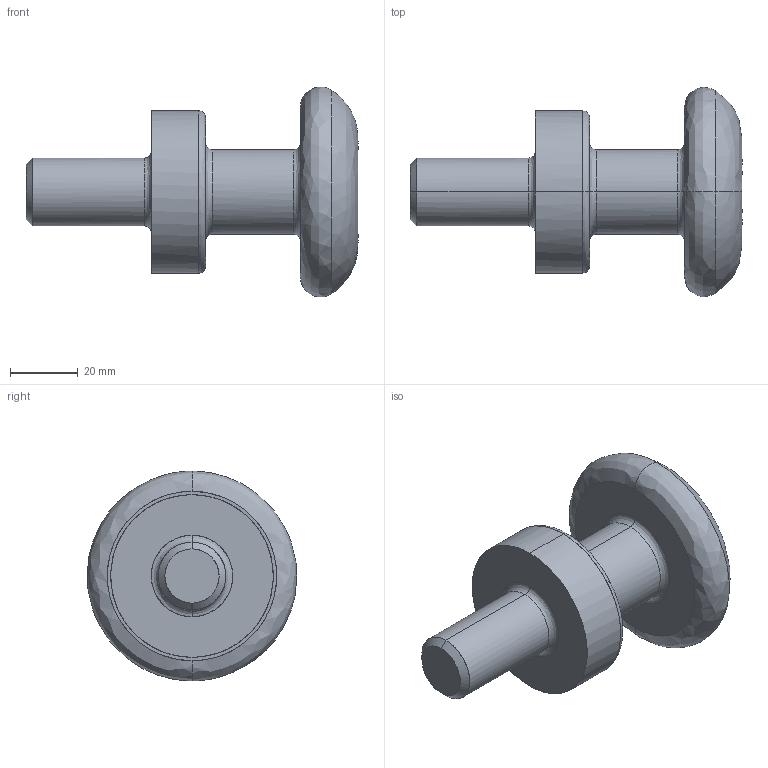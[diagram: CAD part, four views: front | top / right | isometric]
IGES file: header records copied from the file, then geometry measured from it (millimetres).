
Global section: file name: E:\UnigraphicsGraphicData\MISUMI_PRESS-PARTS\IGES\3d_chnl20_03549_r00.igs; native system: NX V5.0; preprocessor: UGS NX IGES V5.0; author: MISUMI; date: 20110105.160221; units: millimetre
Bounding box: 98 x 61.93 x 61.96 mm (x, y, z)
Surface area: 17511.6 mm2 (no closed solid volume)
Topology: 0 solids, 0 shells, 32 faces, 228 edges, 228 vertices
Faces by surface type: bspline 32
